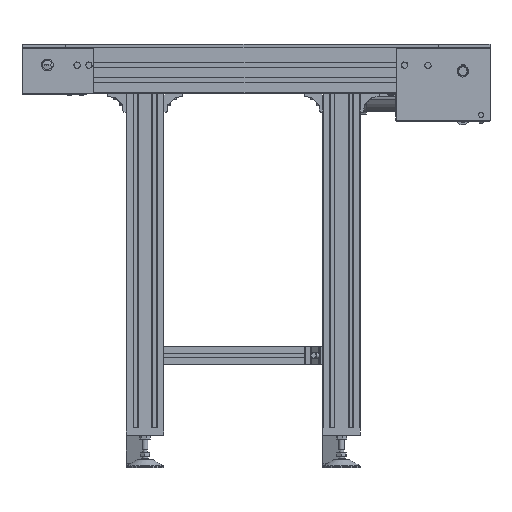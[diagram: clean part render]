
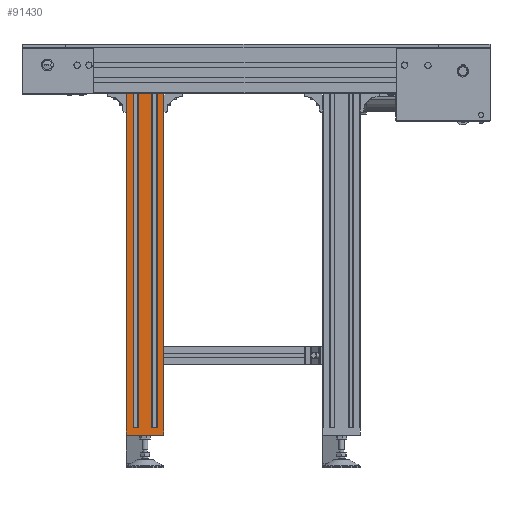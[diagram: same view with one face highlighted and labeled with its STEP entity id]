
A CAD part, front view. The second image highlights one B-rep face of the part: STEP entity #91430.
In plain terms, the highlighted planar face has unit normal (0, -1, 0).
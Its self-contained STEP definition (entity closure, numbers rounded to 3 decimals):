
#2416=LINE('',#130939,#10820);
#2432=LINE('',#130983,#10836);
#2448=LINE('',#131027,#10852);
#5696=LINE('',#142736,#14100);
#6142=LINE('',#144912,#14546);
#6159=LINE('',#144958,#14563);
#6175=LINE('',#145003,#14579);
#6176=LINE('',#145007,#14580);
#6240=LINE('',#145188,#14644);
#6286=LINE('',#145455,#14690);
#6468=LINE('',#145847,#14872);
#6469=LINE('',#145849,#14873);
#6470=LINE('',#145850,#14874);
#6471=LINE('',#145851,#14875);
#6472=LINE('',#145852,#14876);
#6473=LINE('',#145853,#14877);
#10820=VECTOR('',#105427,13.45);
#10836=VECTOR('',#105455,28.9);
#10852=VECTOR('',#105483,13.45);
#14100=VECTOR('',#114027,15.);
#14546=VECTOR('',#115631,1.);
#14563=VECTOR('',#115662,11.1);
#14579=VECTOR('',#115692,11.1);
#14580=VECTOR('',#115697,1.);
#14644=VECTOR('',#115827,80.);
#14690=VECTOR('',#115995,15.);
#14872=VECTOR('',#116473,715.);
#14873=VECTOR('',#116476,715.);
#14874=VECTOR('',#116477,715.);
#14875=VECTOR('',#116478,715.);
#14876=VECTOR('',#116479,715.);
#14877=VECTOR('',#116480,715.);
#19609=PLANE('',#98441);
#25940=FACE_OUTER_BOUND('',#31418,.T.);
#31418=EDGE_LOOP('',(#72137,#72138,#72139,#72140,#72141,#72142,#72143,#72144,
#72145,#72146,#72147,#72148,#72149,#72150,#72151,#72152));
#38837=VERTEX_POINT('',#130936);
#38838=VERTEX_POINT('',#130938);
#38859=VERTEX_POINT('',#130980);
#38860=VERTEX_POINT('',#130982);
#38881=VERTEX_POINT('',#131024);
#38882=VERTEX_POINT('',#131026);
#42203=VERTEX_POINT('',#142733);
#42204=VERTEX_POINT('',#142735);
#42837=VERTEX_POINT('',#144908);
#42839=VERTEX_POINT('',#144911);
#42841=VERTEX_POINT('',#144916);
#42861=VERTEX_POINT('',#144956);
#42863=VERTEX_POINT('',#144961);
#42883=VERTEX_POINT('',#145001);
#42884=VERTEX_POINT('',#145005);
#42968=VERTEX_POINT('',#145186);
#47694=EDGE_CURVE('',#38837,#38838,#2416,.T.);
#47716=EDGE_CURVE('',#38859,#38860,#2432,.T.);
#47738=EDGE_CURVE('',#38881,#38882,#2448,.T.);
#52396=EDGE_CURVE('',#42204,#42203,#5696,.T.);
#53262=EDGE_CURVE('',#42839,#42837,#6142,.T.);
#53285=EDGE_CURVE('',#42841,#42861,#6159,.T.);
#53307=EDGE_CURVE('',#42863,#42883,#6175,.T.);
#53309=EDGE_CURVE('',#42884,#42204,#6176,.T.);
#53399=EDGE_CURVE('',#42203,#42968,#6240,.T.);
#53478=EDGE_CURVE('',#42839,#42968,#6286,.T.);
#53672=EDGE_CURVE('',#42837,#38882,#6468,.T.);
#53673=EDGE_CURVE('',#42841,#38881,#6469,.T.);
#53674=EDGE_CURVE('',#42861,#38860,#6470,.T.);
#53675=EDGE_CURVE('',#42863,#38859,#6471,.T.);
#53676=EDGE_CURVE('',#42883,#38838,#6472,.T.);
#53677=EDGE_CURVE('',#42884,#38837,#6473,.T.);
#72137=ORIENTED_EDGE('',*,*,#53672,.T.);
#72138=ORIENTED_EDGE('',*,*,#47738,.F.);
#72139=ORIENTED_EDGE('',*,*,#53673,.F.);
#72140=ORIENTED_EDGE('',*,*,#53285,.T.);
#72141=ORIENTED_EDGE('',*,*,#53674,.T.);
#72142=ORIENTED_EDGE('',*,*,#47716,.F.);
#72143=ORIENTED_EDGE('',*,*,#53675,.F.);
#72144=ORIENTED_EDGE('',*,*,#53307,.T.);
#72145=ORIENTED_EDGE('',*,*,#53676,.T.);
#72146=ORIENTED_EDGE('',*,*,#47694,.F.);
#72147=ORIENTED_EDGE('',*,*,#53677,.F.);
#72148=ORIENTED_EDGE('',*,*,#53309,.T.);
#72149=ORIENTED_EDGE('',*,*,#52396,.T.);
#72150=ORIENTED_EDGE('',*,*,#53399,.T.);
#72151=ORIENTED_EDGE('',*,*,#53478,.F.);
#72152=ORIENTED_EDGE('',*,*,#53262,.T.);
#91430=ADVANCED_FACE('',(#25940),#19609,.T.);
#98441=AXIS2_PLACEMENT_3D('',#145848,#116474,#116475);
#105427=DIRECTION('',(1.,0.,0.));
#105455=DIRECTION('',(1.,0.,0.));
#105483=DIRECTION('',(1.,0.,0.));
#114027=DIRECTION('',(0.,0.,-1.));
#115631=DIRECTION('',(-1.,0.,0.));
#115662=DIRECTION('',(-1.,0.,0.));
#115692=DIRECTION('',(-1.,0.,0.));
#115697=DIRECTION('',(-1.,0.,0.));
#115827=DIRECTION('',(1.,0.,0.));
#115995=DIRECTION('',(0.,0.,-1.));
#116473=DIRECTION('',(0.,0.,1.));
#116474=DIRECTION('center_axis',(0.,-1.,0.));
#116475=DIRECTION('ref_axis',(1.,0.,0.));
#116476=DIRECTION('',(0.,0.,1.));
#116477=DIRECTION('',(0.,0.,1.));
#116478=DIRECTION('',(0.,0.,1.));
#116479=DIRECTION('',(0.,0.,1.));
#116480=DIRECTION('',(0.,0.,1.));
#130936=CARTESIAN_POINT('',(224.,-165.,1.45));
#130938=CARTESIAN_POINT('',(237.45,-165.,1.45));
#130939=CARTESIAN_POINT('',(224.,-165.,1.45));
#130980=CARTESIAN_POINT('',(248.55,-165.,1.45));
#130982=CARTESIAN_POINT('',(277.45,-165.,1.45));
#130983=CARTESIAN_POINT('',(248.55,-165.,1.45));
#131024=CARTESIAN_POINT('',(288.55,-165.,1.45));
#131026=CARTESIAN_POINT('',(302.,-165.,1.45));
#131027=CARTESIAN_POINT('',(288.55,-165.,1.45));
#142733=CARTESIAN_POINT('',(223.,-165.,-728.55));
#142735=CARTESIAN_POINT('',(223.,-165.,-713.55));
#142736=CARTESIAN_POINT('',(223.,-165.,-713.55));
#144908=CARTESIAN_POINT('',(302.,-165.,-713.55));
#144911=CARTESIAN_POINT('',(303.,-165.,-713.55));
#144912=CARTESIAN_POINT('',(303.,-165.,-713.55));
#144916=CARTESIAN_POINT('',(288.55,-165.,-713.55));
#144956=CARTESIAN_POINT('',(277.45,-165.,-713.55));
#144958=CARTESIAN_POINT('',(303.,-165.,-713.55));
#144961=CARTESIAN_POINT('',(248.55,-165.,-713.55));
#145001=CARTESIAN_POINT('',(237.45,-165.,-713.55));
#145003=CARTESIAN_POINT('',(303.,-165.,-713.55));
#145005=CARTESIAN_POINT('',(224.,-165.,-713.55));
#145007=CARTESIAN_POINT('',(303.,-165.,-713.55));
#145186=CARTESIAN_POINT('',(303.,-165.,-728.55));
#145188=CARTESIAN_POINT('',(303.,-165.,-728.55));
#145455=CARTESIAN_POINT('',(303.,-165.,-713.55));
#145847=CARTESIAN_POINT('',(302.,-165.,-713.55));
#145848=CARTESIAN_POINT('Origin',(288.55,-165.,-713.55));
#145849=CARTESIAN_POINT('',(288.55,-165.,-713.55));
#145850=CARTESIAN_POINT('',(277.45,-165.,-713.55));
#145851=CARTESIAN_POINT('',(248.55,-165.,-713.55));
#145852=CARTESIAN_POINT('',(237.45,-165.,-713.55));
#145853=CARTESIAN_POINT('',(224.,-165.,-713.55));
